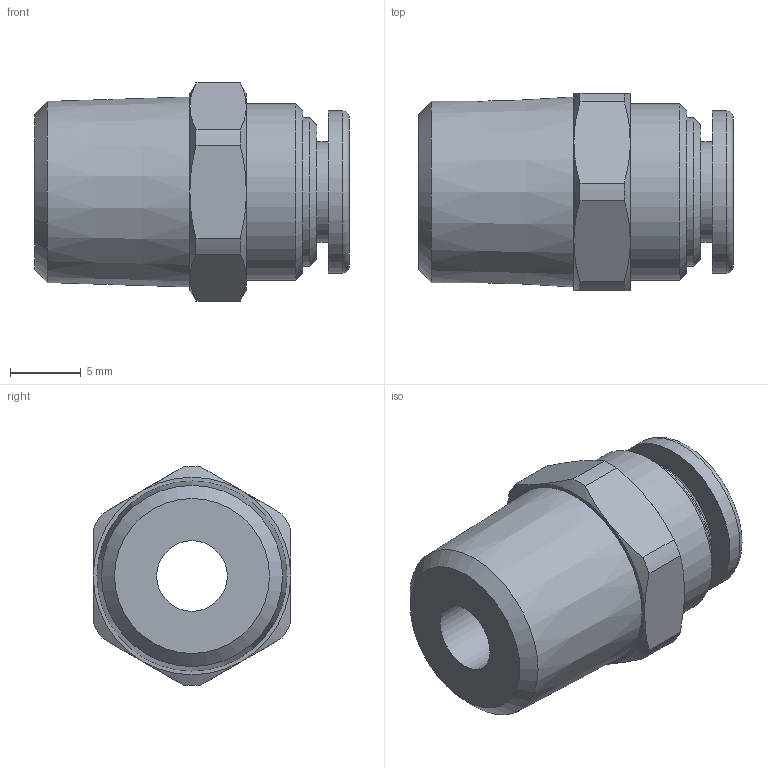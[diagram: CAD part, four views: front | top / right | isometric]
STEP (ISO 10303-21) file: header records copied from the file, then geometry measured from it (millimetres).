
FILE_DESCRIPTION(/* description */ (''),/* implementation_level */ '2;1');
FILE_NAME(/* name */ 'E:\2013年度版　3D-DATA\【02】 TOUCH CONNECTOR FIVE SUS\[01] MALE CONNECTOR\[06] FS6-02M FS6-02MW.stp',/* time_stamp */ '2013-08-06T16:46:34+09:00',/* author */ ('takahashi-pc2'),/* organization */ (''),/* preprocessor_version */ 'ST-DEVELOPER v15.2',/* originating_system */ 'Autodesk Inventor 2014',/* authorisation */ '');
FILE_SCHEMA (('AUTOMOTIVE_DESIGN { 1 0 10303 214 3 1 1 }'));
Length unit declared in the file: millimetre
Products named in the file (1): [06] FS6-02M FS6-02MW
Bounding box: 22.3 x 14 x 15.49 mm (x, y, z)
Volume: 2351.1 mm3; surface area: 1642.3 mm2
Topology: 1 solids, 1 shells, 43 faces, 89 edges, 54 vertices
Faces by surface type: cone 16, plane 14, cylinder 12, torus 1
Full cylindrical faces by diameter (mm): 5 x1, 6 x1, 7.1 x1, 10.5 x1, 11.5 x1, 12.5 x1
Entity records: 1083 total; most frequent: CARTESIAN_POINT 224, DIRECTION 184, ORIENTED_EDGE 156, AXIS2_PLACEMENT_3D 86, EDGE_CURVE 78, EDGE_LOOP 62, VERTEX_POINT 54, ADVANCED_FACE 43
